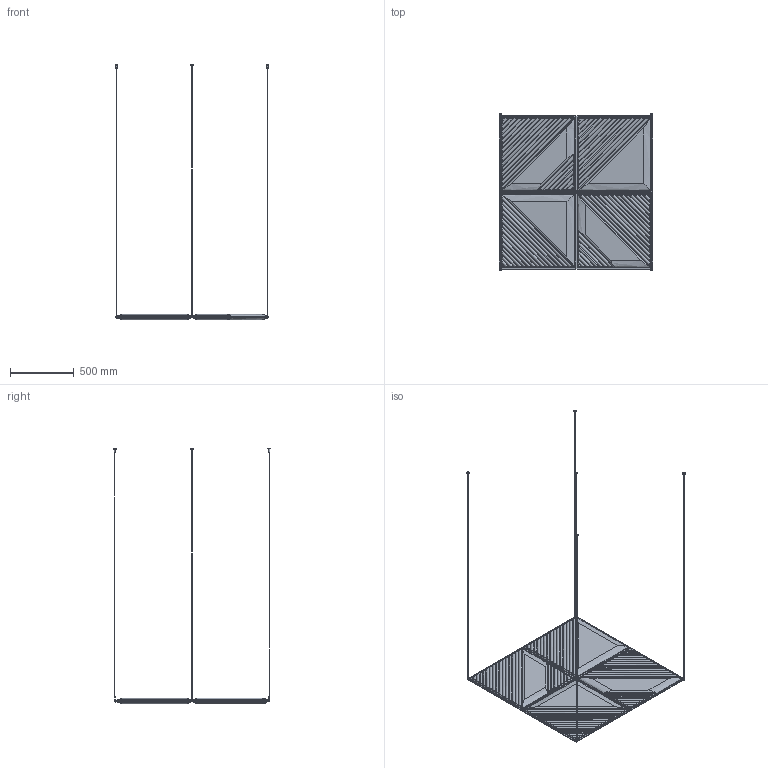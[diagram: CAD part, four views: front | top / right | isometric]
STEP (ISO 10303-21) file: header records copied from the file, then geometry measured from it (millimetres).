
FILE_DESCRIPTION(/* description */ (''),/* implementation_level */ '2;1');
FILE_NAME(/* name */ 'C4',/* time_stamp */ '2022-12-22T16:12:22+01:00',/* author */ (''),/* organization */ (''),/* preprocessor_version */ 'ST-DEVELOPER v16.5',/* originating_system */ 'Rhino 7.22',/* authorisation */ '');
FILE_SCHEMA (('CONFIG_CONTROL_DESIGN'));
Length unit declared in the file: millimetre
Products named in the file (1): Document
Bounding box: 1205.63 x 1229.1 x 2002.36 mm (x, y, z)
Volume: 42279636.2 mm3; surface area: 9085434.2 mm2
Topology: 23 solids, 23 shells, 774 faces, 1961 edges, 1246 vertices
Faces by surface type: cylinder 328, bspline 324, plane 122
Entity records: 40584 total; most frequent: CARTESIAN_POINT 28172, ORIENTED_EDGE 3922, EDGE_CURVE 1961, VERTEX_POINT 1246, B_SPLINE_CURVE_WITH_KNOTS 1185, EDGE_LOOP 813, ADVANCED_FACE 774, FACE_OUTER_BOUND 774
